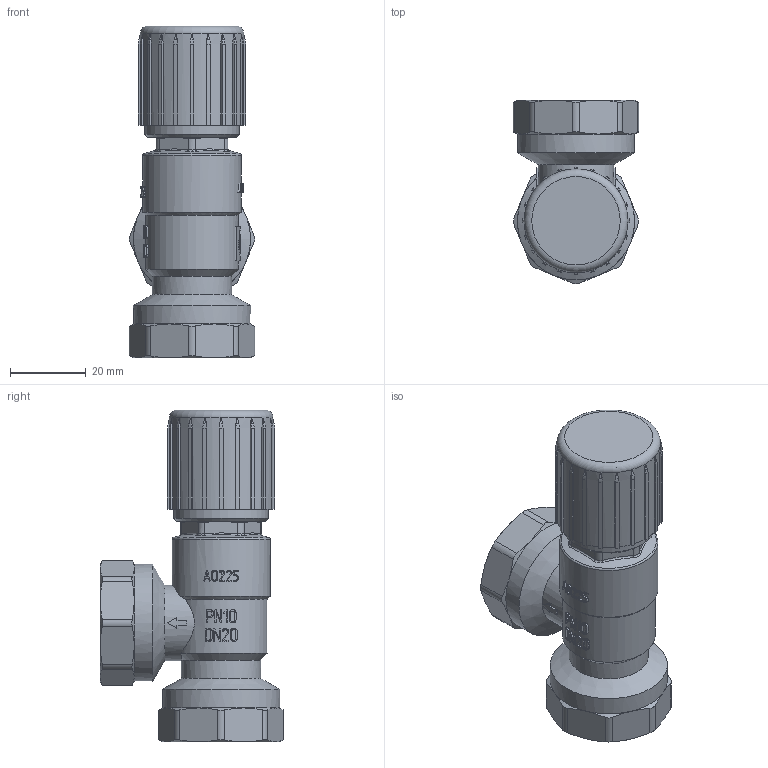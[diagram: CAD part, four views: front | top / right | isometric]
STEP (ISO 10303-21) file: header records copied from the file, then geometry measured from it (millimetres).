
FILE_DESCRIPTION(('STEP AP242'), '1');
FILE_NAME('VT.665.N.0501', '', ('UNSPECIFIED'), ('UNSPECIFIED'), 'C3D Converter', 'C3D Toolkit', '');
FILE_SCHEMA(('AP242_MANAGED_MODEL_BASED_3D_ENGINEERING_MIM_LF { 1 0 10303 442 1 1 4 }'));
Length unit declared in the file: millimetre
Products named in the file (15): ВР.493612.012.000 СБ; ВР.493619.002.000; ВР.753191.001; ВР.713161.001; ВР.712221.001; ВР.493619.002.001; ВР.753157.001; ВР.493619.002.002; ВР.716623.001; ВР.753512.018
Assembly tree (15 placements, depth 4):
  ВР.493612.012.000 СБ
    (unnamed)
    ВР.493619.002.000
      ВР.753191.001
      ВР.713161.001
      ВР.712221.001
      (unnamed)
      ВР.493619.002.001
        ВР.753157.001
        (unnamed)
        (unnamed)
        (unnamed)
      ВР.493619.002.002
        ВР.716623.001
        (unnamed)
      ВР.753512.018
Bounding box: 33.14 x 48.57 x 87.8 mm (x, y, z)
Volume: 47507.1 mm3; surface area: 19009.8 mm2
Topology: 1 solids, 1 shells, 1234 faces, 3736 edges, 2469 vertices
Faces by surface type: plane 716, extrusion 306, cylinder 129, cone 35, torus 24, bspline 24
Full cylindrical faces by diameter (mm): 15 x1, 16 x1, 20 x1, 21 x1, 24.118 x2, 25 x1, 25.2 x1, 26 x1, 27.4 x1, 31 x2
Entity records: 59701 total; most frequent: CARTESIAN_POINT 28248, ORIENTED_EDGE 7260, DIRECTION 4954, EDGE_CURVE 3630, VERTEX_POINT 2408, VECTOR 1996, LINE 1690, B_SPLINE_CURVE_WITH_KNOTS 1523
